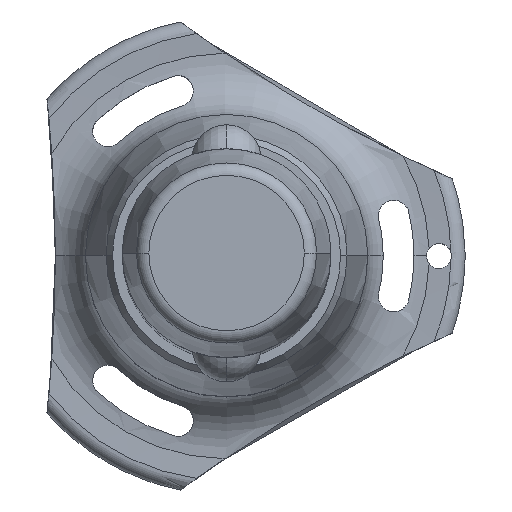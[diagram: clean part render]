
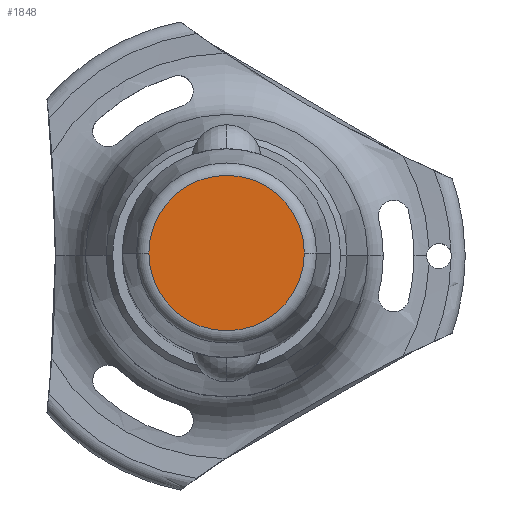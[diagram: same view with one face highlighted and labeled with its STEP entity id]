
A CAD part, top view. The second image highlights one B-rep face of the part: STEP entity #1848.
In plain terms, the highlighted planar face has unit normal (0, 0, 1).
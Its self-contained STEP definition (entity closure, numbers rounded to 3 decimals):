
#185 = AXIS2_PLACEMENT_3D ( 'NONE', #289, #977, #1160 ) ;
#289 = CARTESIAN_POINT ( 'NONE',  ( 0., 0., 22. ) ) ;
#448 = EDGE_LOOP ( 'NONE', ( #1592, #1622 ) ) ;
#466 = AXIS2_PLACEMENT_3D ( 'NONE', #1209, #2539, #2126 ) ;
#498 = CARTESIAN_POINT ( 'NONE',  ( -9.302, 0., 22. ) ) ;
#632 = CARTESIAN_POINT ( 'NONE',  ( 9.302, 0., 22. ) ) ;
#635 = VERTEX_POINT ( 'NONE', #632 ) ;
#695 = PLANE ( 'NONE',  #1274 ) ;
#880 = CIRCLE ( 'NONE', #466, 9.302 ) ;
#909 = DIRECTION ( 'NONE',  ( 0., 0., 1. ) ) ;
#977 = DIRECTION ( 'NONE',  ( 0., 0., 1. ) ) ;
#1160 = DIRECTION ( 'NONE',  ( 1., 0., 0. ) ) ;
#1209 = CARTESIAN_POINT ( 'NONE',  ( 0., 0., 22. ) ) ;
#1274 = AXIS2_PLACEMENT_3D ( 'NONE', #1312, #909, #1286 ) ;
#1286 = DIRECTION ( 'NONE',  ( 1., 0., 0. ) ) ;
#1312 = CARTESIAN_POINT ( 'NONE',  ( 0., 0., 22. ) ) ;
#1592 = ORIENTED_EDGE ( 'NONE', *, *, #2789, .T. ) ;
#1622 = ORIENTED_EDGE ( 'NONE', *, *, #2162, .T. ) ;
#1848 = ADVANCED_FACE ( 'NONE', ( #2656 ), #695, .T. ) ;
#2126 = DIRECTION ( 'NONE',  ( 1., 0., 0. ) ) ;
#2162 = EDGE_CURVE ( 'NONE', #2429, #635, #880, .T. ) ;
#2429 = VERTEX_POINT ( 'NONE', #498 ) ;
#2539 = DIRECTION ( 'NONE',  ( 0., 0., 1. ) ) ;
#2543 = CIRCLE ( 'NONE', #185, 9.302 ) ;
#2656 = FACE_OUTER_BOUND ( 'NONE', #448, .T. ) ;
#2789 = EDGE_CURVE ( 'NONE', #635, #2429, #2543, .T. ) ;
